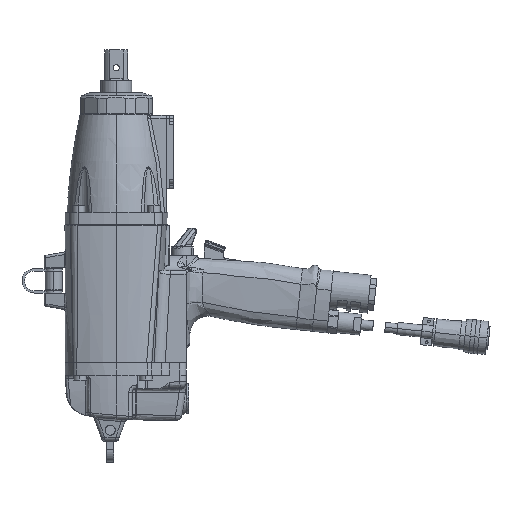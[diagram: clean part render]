
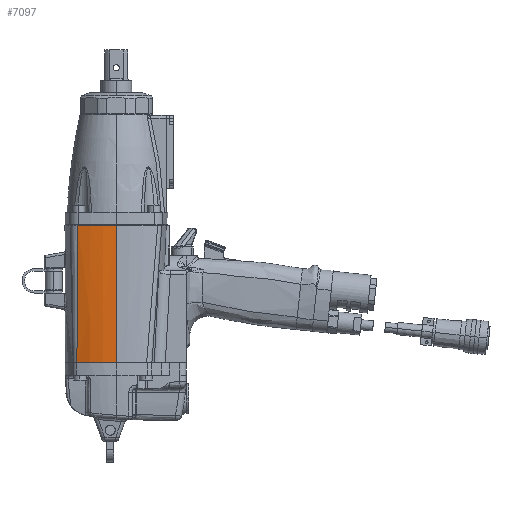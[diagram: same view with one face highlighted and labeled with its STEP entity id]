
A CAD part, left-side view. The second image highlights one B-rep face of the part: STEP entity #7097.
In plain terms, the highlighted free-form (B-spline) face has degree [3, 3] with [4, 9] control points.
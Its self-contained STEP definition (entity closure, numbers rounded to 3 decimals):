
#4017 = VERTEX_POINT ( 'NONE', #23495 ) ;
#4149 = EDGE_CURVE ( 'NONE', #4151, #4017, #23700, .T. ) ;
#4151 = VERTEX_POINT ( 'NONE', #23695 ) ;
#6965 = EDGE_CURVE ( 'NONE', #7005, #4151, #30580, .T. ) ;
#6968 = EDGE_LOOP ( 'NONE', ( #7099, #7101, #7103, #7105 ) ) ;
#7005 = VERTEX_POINT ( 'NONE', #30723 ) ;
#7009 = EDGE_CURVE ( 'NONE', #7005, #7011, #30722, .T. ) ;
#7011 = VERTEX_POINT ( 'NONE', #30717 ) ;
#7097 = ADVANCED_FACE ( 'NONE', ( #30793 ), #30792, .T. ) ;
#7099 = ORIENTED_EDGE ( 'NONE', *, *, #7009, .F. ) ;
#7101 = ORIENTED_EDGE ( 'NONE', *, *, #6965, .T. ) ;
#7103 = ORIENTED_EDGE ( 'NONE', *, *, #4149, .T. ) ;
#7105 = ORIENTED_EDGE ( 'NONE', *, *, #7107, .F. ) ;
#7107 = EDGE_CURVE ( 'NONE', #7011, #4017, #30791, .T. ) ;
#23495 = CARTESIAN_POINT ( 'NONE',  ( -42., 0., -112. ) ) ;
#23695 = CARTESIAN_POINT ( 'NONE',  ( -35.248, 32.167, -112. ) ) ;
#23696 = DIRECTION ( 'NONE',  ( 1., 0., 0. ) ) ;
#23697 = DIRECTION ( 'NONE',  ( 0., 0., 1. ) ) ;
#23698 = CARTESIAN_POINT ( 'NONE',  ( 38., 0., -112. ) ) ;
#23699 = AXIS2_PLACEMENT_3D ( 'NONE', #23698, #23697, #23696 ) ;
#23700 = CIRCLE ( 'NONE', #23699, 80. ) ;
#30577 = DIRECTION ( 'NONE',  ( 0.023, 0.006, -1. ) ) ;
#30578 = VECTOR ( 'NONE', #30577, 1000. ) ;
#30579 = CARTESIAN_POINT ( 'NONE',  ( -36.523, 31.821, -56. ) ) ;
#30580 = LINE ( 'NONE', #30579, #30578 ) ;
#30717 = CARTESIAN_POINT ( 'NONE',  ( -42., 0., 0. ) ) ;
#30718 = DIRECTION ( 'NONE',  ( 1., 0., 0. ) ) ;
#30719 = DIRECTION ( 'NONE',  ( 0., 0., 1. ) ) ;
#30720 = CARTESIAN_POINT ( 'NONE',  ( 78., 0., 0. ) ) ;
#30721 = AXIS2_PLACEMENT_3D ( 'NONE', #30720, #30719, #30718 ) ;
#30722 = CIRCLE ( 'NONE', #30721, 120. ) ;
#30723 = CARTESIAN_POINT ( 'NONE',  ( -37.799, 31.474, 0. ) ) ;
#30791 = LINE ( 'NONE', #30843, #30842 ) ;
#30792 =( BOUNDED_SURFACE ( )  B_SPLINE_SURFACE ( 3, 3, ( 
 ( #30841, #30840, #30839, #30838, #30837, #30836, #30835, #30834, #30833 ),
 ( #30832, #30831, #30830, #30829, #30828, #30827, #30826, #30825, #30824 ),
 ( #30823, #30822, #30821, #30820, #30819, #30818, #30817, #30816, #30815 ),
 ( #30814, #30813, #30870, #30869, #30868, #30867, #30866, #30865, #30864 ) ),
 .UNSPECIFIED., .F., .F., .T. ) 
 B_SPLINE_SURFACE_WITH_KNOTS ( ( 4, 4 ),
 ( 4, 1, 1, 1, 1, 1, 4 ),
 ( 0.143, 0.286 ),
 ( 0., 0.167, 0.333, 0.5, 0.667, 0.875, 1. ),
 .UNSPECIFIED. ) 
 GEOMETRIC_REPRESENTATION_ITEM ( )  RATIONAL_B_SPLINE_SURFACE ( (
 ( 1., 1., 1., 1., 1., 1., 1., 1., 1.),
 ( 0.994, 0.994, 0.993, 0.991, 0.99, 0.989, 0.986, 0.986, 0.986),
 ( 0.994, 0.994, 0.993, 0.991, 0.99, 0.989, 0.986, 0.986, 0.986),
 ( 1., 1., 1., 1., 1., 1., 1., 1., 1.) ) ) 
 REPRESENTATION_ITEM ( '' )  SURFACE ( )  );
#30793 = FACE_OUTER_BOUND ( 'NONE', #6968, .T. ) ;
#30813 = CARTESIAN_POINT ( 'NONE',  ( -37.657, 31.513, -6.222 ) ) ;
#30814 = CARTESIAN_POINT ( 'NONE',  ( -37.799, 31.474, 0. ) ) ;
#30815 = CARTESIAN_POINT ( 'NONE',  ( -39.717, 21.991, -112. ) ) ;
#30816 = CARTESIAN_POINT ( 'NONE',  ( -39.703, 22.031, -106.681 ) ) ;
#30817 = CARTESIAN_POINT ( 'NONE',  ( -39.668, 22.139, -92.508 ) ) ;
#30818 = CARTESIAN_POINT ( 'NONE',  ( -39.778, 22.076, -73.341 ) ) ;
#30819 = CARTESIAN_POINT ( 'NONE',  ( -39.981, 21.812, -53.33 ) ) ;
#30820 = CARTESIAN_POINT ( 'NONE',  ( -40.157, 21.682, -35.014 ) ) ;
#30821 = CARTESIAN_POINT ( 'NONE',  ( -40.369, 21.47, -17.08 ) ) ;
#30822 = CARTESIAN_POINT ( 'NONE',  ( -40.517, 21.29, -5.689 ) ) ;
#30823 = CARTESIAN_POINT ( 'NONE',  ( -40.591, 21.2, 0. ) ) ;
#30824 = CARTESIAN_POINT ( 'NONE',  ( -42., 11.114, -112. ) ) ;
#30825 = CARTESIAN_POINT ( 'NONE',  ( -42., 11.094, -107.298 ) ) ;
#30826 = CARTESIAN_POINT ( 'NONE',  ( -42., 11.042, -94.772 ) ) ;
#30827 = CARTESIAN_POINT ( 'NONE',  ( -42., 10.965, -76.057 ) ) ;
#30828 = CARTESIAN_POINT ( 'NONE',  ( -42., 10.88, -55.827 ) ) ;
#30829 = CARTESIAN_POINT ( 'NONE',  ( -42., 10.803, -37.172 ) ) ;
#30830 = CARTESIAN_POINT ( 'NONE',  ( -42., 10.725, -18.557 ) ) ;
#30831 = CARTESIAN_POINT ( 'NONE',  ( -42., 10.673, -6.18 ) ) ;
#30832 = CARTESIAN_POINT ( 'NONE',  ( -42., 10.647, 0. ) ) ;
#30833 = CARTESIAN_POINT ( 'NONE',  ( -42., 0., -112. ) ) ;
#30834 = CARTESIAN_POINT ( 'NONE',  ( -42., 0., -107.333 ) ) ;
#30835 = CARTESIAN_POINT ( 'NONE',  ( -42., 0., -94.889 ) ) ;
#30836 = CARTESIAN_POINT ( 'NONE',  ( -42., 0., -76.222 ) ) ;
#30837 = CARTESIAN_POINT ( 'NONE',  ( -42., 0., -56. ) ) ;
#30838 = CARTESIAN_POINT ( 'NONE',  ( -42., 0., -37.333 ) ) ;
#30839 = CARTESIAN_POINT ( 'NONE',  ( -42., 0., -18.667 ) ) ;
#30840 = CARTESIAN_POINT ( 'NONE',  ( -42., 0., -6.222 ) ) ;
#30841 = CARTESIAN_POINT ( 'NONE',  ( -42., 0., 0. ) ) ;
#30842 = VECTOR ( 'NONE', #30845, 1000. ) ;
#30843 = CARTESIAN_POINT ( 'NONE',  ( -42., 0., -56. ) ) ;
#30845 = DIRECTION ( 'NONE',  ( 0., 0., -1. ) ) ;
#30864 = CARTESIAN_POINT ( 'NONE',  ( -35.248, 32.167, -112. ) ) ;
#30865 = CARTESIAN_POINT ( 'NONE',  ( -35.354, 32.138, -107.333 ) ) ;
#30866 = CARTESIAN_POINT ( 'NONE',  ( -35.638, 32.061, -94.889 ) ) ;
#30867 = CARTESIAN_POINT ( 'NONE',  ( -36.063, 31.946, -76.222 ) ) ;
#30868 = CARTESIAN_POINT ( 'NONE',  ( -36.523, 31.821, -56. ) ) ;
#30869 = CARTESIAN_POINT ( 'NONE',  ( -36.949, 31.705, -37.333 ) ) ;
#30870 = CARTESIAN_POINT ( 'NONE',  ( -37.374, 31.59, -18.667 ) ) ;
